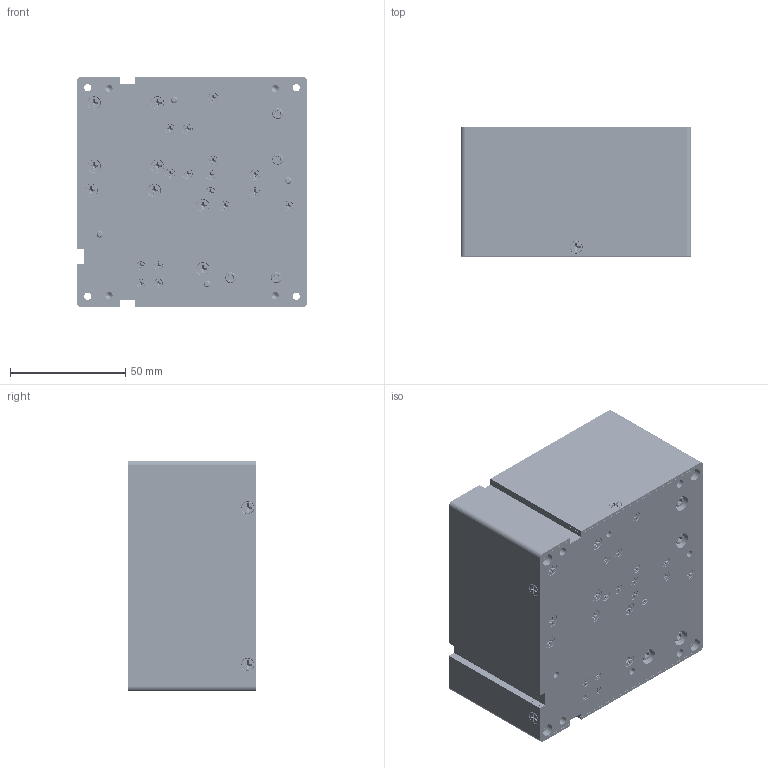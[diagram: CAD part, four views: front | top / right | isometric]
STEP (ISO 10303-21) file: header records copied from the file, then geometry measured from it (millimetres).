
FILE_DESCRIPTION (( 'STEP AP214' ), '1' );
FILE_NAME ('711-00803 MAI-400 ADACS Kit.STEP', '2017-01-20T22:02:55', ( '' ), ( '' ), 'SwSTEP 2.0', 'SolidWorks 2014', '' );
FILE_SCHEMA (( 'AUTOMOTIVE_DESIGN' ));
Length unit declared in the file: inch
Products named in the file (2): 711-00803 MAI-400 ADACS Kit
Bounding box: 100.1 x 55.88 x 100.1 mm (x, y, z)
Volume: 115488.8 mm3; surface area: 109970.6 mm2
Topology: 1 solids, 1 shells, 3077 faces, 8017 edges, 5117 vertices
Faces by surface type: cylinder 1155, plane 1033, cone 785, bspline 92, torus 12
Entity records: 140794 total; most frequent: CARTESIAN_POINT 64970, ORIENTED_EDGE 15898, DIRECTION 13580, EDGE_CURVE 7949, VERTEX_POINT 5117, AXIS2_PLACEMENT_3D 5064, EDGE_LOOP 3466, LINE 3452
